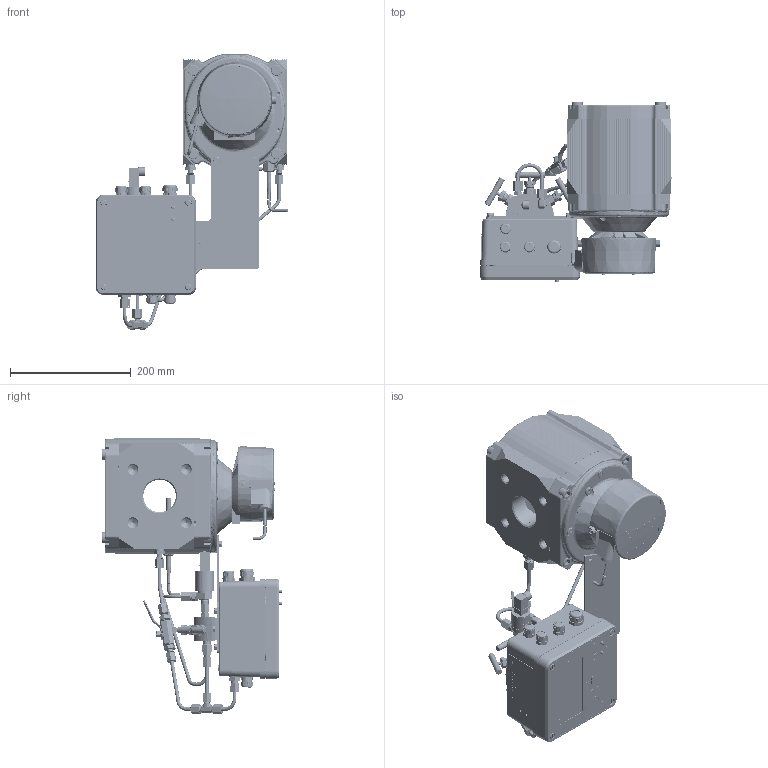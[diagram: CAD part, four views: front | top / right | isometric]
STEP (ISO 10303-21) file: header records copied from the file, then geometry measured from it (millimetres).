
FILE_DESCRIPTION(('STEP AP242'), '1');
FILE_NAME('ÑÃ-ÝÊÐ-Ð-100 c ÏÏÄ ñâåðõó âíèç, êîðð ñëåâà', '', ('UNSPECIFIED'), ('UNSPECIFIED'), 'C3D Converter', 'C3D Toolkit', '');
FILE_SCHEMA(('AP242_MANAGED_MODEL_BASED_3D_ENGINEERING_MIM_LF { 1 0 10303 442 1 1 4 }'));
Length unit declared in the file: millimetre
Bounding box: 319.02 x 298.28 x 456.93 mm (x, y, z)
Volume: 4689261.4 mm3; surface area: 1227237.9 mm2
Topology: 172 solids, 172 shells, 9657 faces, 25117 edges, 16330 vertices
Faces by surface type: plane 3350, extrusion 2891, cylinder 1912, cone 832, bspline 377, torus 261, sphere 34
Full cylindrical faces by diameter (mm): 1.5 x8, 1.95 x3, 2 x41, 2.2 x14, 2.3 x8, 2.459 x11, 2.5 x20, 2.791 x2, 3 x24, 3.1 x1, 3.2 x13, 3.242 x7, 3.3 x4, 3.45 x3, 3.459 x2, 3.688 x1, 4 x44, 4.134 x1, 4.2 x6, 4.3 x12, 4.5 x1, 4.917 x15, 5 x28, 5.2 x12, 5.5 x8, 5.8 x4, 6 x71, 6.2 x6, 6.5 x6, 6.6 x4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
Entity records: 505403 total; most frequent: CARTESIAN_POINT 210234, ORIENTED_EDGE 47436, DIRECTION 35165, EDGE_CURVE 23718, VERTEX_POINT 16258, VECTOR 13671, EDGE_LOOP 11900, B_SPLINE_CURVE_WITH_KNOTS 11043
